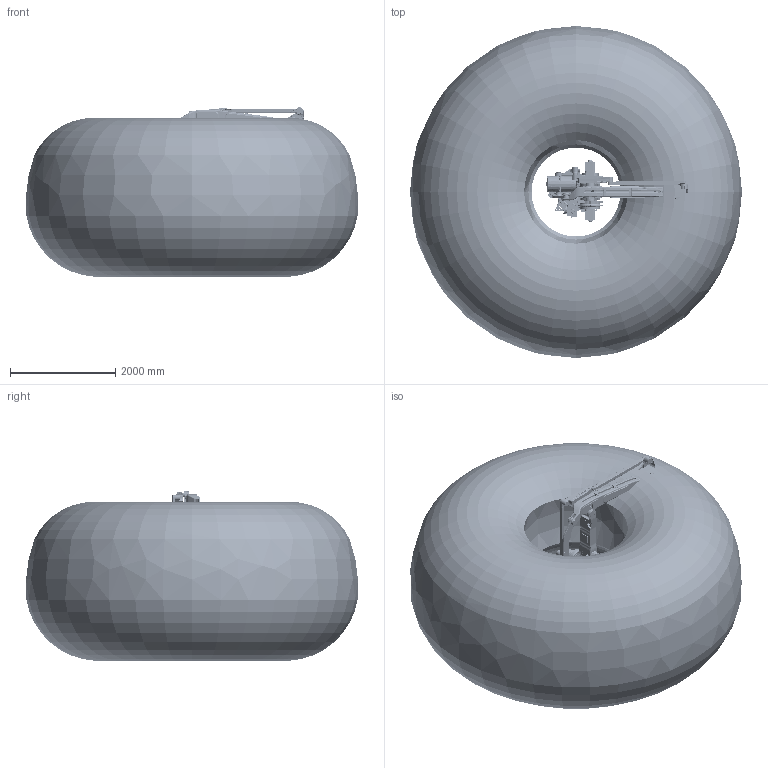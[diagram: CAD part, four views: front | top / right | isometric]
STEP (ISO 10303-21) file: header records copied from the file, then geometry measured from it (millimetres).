
FILE_DESCRIPTION(/* description */ (''),/* implementation_level */ '2;1');
FILE_NAME(/* name */ 'PL320.stp',/* time_stamp */ '2022-05-17T17:18:20+02:00',/* author */ (''),/* organization */ (''),/* preprocessor_version */ 'ST-DEVELOPER v16.7',/* originating_system */ 'SIEMENS PLM Software NX 1919',/* authorisation */ '');
FILE_SCHEMA (('AUTOMOTIVE_DESIGN { 1 0 10303 214 3 1 1 1 }'));
Length unit declared in the file: millimetre
Products named in the file (15): PL320-Range; T_VIEW_04LXH320-A00; WRIST_VIEW_04LXH320-A00; LINKE_VIEW_04LXH320-A00; LINKD_VIEW_04LXH320-A00; LINKC_VIEW_04LXH320-A00; U_VIEW_04LXH320-A00; LINKA_VIEW_04LXH320-A00; LINKB_VIEW_04LXH320-A00; BALANCER2_VIEW_04LXH320-A00; BALANCER1_VIEW_04LXH320-A00; L_VIEW_04LXH320-A00; S_VIEW_04LXH320-A00; BASE_VIEW_04LXH320-A00; PL320
Assembly tree (14 placements, depth 2):
  PL320
    BASE_VIEW_04LXH320-A00
    S_VIEW_04LXH320-A00
    L_VIEW_04LXH320-A00
    BALANCER1_VIEW_04LXH320-A00
    BALANCER2_VIEW_04LXH320-A00
    LINKB_VIEW_04LXH320-A00
    LINKA_VIEW_04LXH320-A00
    U_VIEW_04LXH320-A00
    LINKC_VIEW_04LXH320-A00
    LINKD_VIEW_04LXH320-A00
    LINKE_VIEW_04LXH320-A00
    WRIST_VIEW_04LXH320-A00
    T_VIEW_04LXH320-A00
    PL320-Range
Bounding box: 6311.35 x 6311.35 x 3221.49 mm (x, y, z)
Volume: 70148271339.6 mm3; surface area: 124337675.1 mm2
Topology: 14 solids, 16 shells, 8075 faces, 20959 edges, 12623 vertices
Faces by surface type: cylinder 2635, plane 2052, bspline 1388, torus 1236, cone 538, sphere 211, extrusion 14, revolution 1
Entity records: 342321 total; most frequent: CARTESIAN_POINT 147176, ORIENTED_EDGE 40906, DIRECTION 38332, EDGE_CURVE 20453, AXIS2_PLACEMENT_3D 15625, VERTEX_POINT 12621, CIRCLE 8864, EDGE_LOOP 8388
